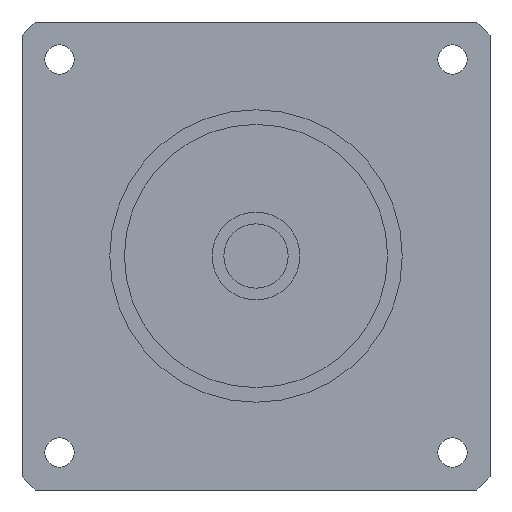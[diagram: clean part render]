
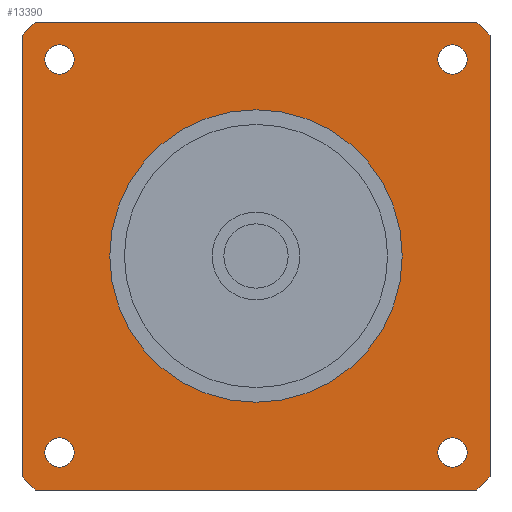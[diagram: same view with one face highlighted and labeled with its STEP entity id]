
A CAD part, left-side view. The second image highlights one B-rep face of the part: STEP entity #13390.
In plain terms, the highlighted planar face has unit normal (-1, 0, 0) as drawn and (0, 0, -1) by its records, which use the part's own axes.
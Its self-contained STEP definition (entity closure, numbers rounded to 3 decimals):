
#8680=CARTESIAN_POINT('',(-37.749,40.,-42.2));
#8690=VERTEX_POINT('',#8680);
#8870=CARTESIAN_POINT('',(-40.,37.749,-42.2));
#8880=VERTEX_POINT('',#8870);
#8910=CARTESIAN_POINT('',(0.,0.,
-42.2));
#8920=DIRECTION('',(0.,0.,1.));
#8930=DIRECTION('',(0.,1.,0.));
#8940=AXIS2_PLACEMENT_3D('',#8910,#8920,#8930);
#8950=CIRCLE('',#8940,55.);
#8960=EDGE_CURVE('',#8690,#8880,#8950,.T.);
#9100=CARTESIAN_POINT('',(-40.,-37.749,-42.2));
#9110=VERTEX_POINT('',#9100);
#9160=CARTESIAN_POINT('',(-40.,40.,-42.2));
#9170=DIRECTION('',(0.,-1.,0.));
#9180=VECTOR('',#9170,1000.);
#9190=LINE('',#9160,#9180);
#9200=EDGE_CURVE('',#8880,#9110,#9190,.T.);
#11930=CARTESIAN_POINT('',(33.588,-31.088,-42.2));
#11940=VERTEX_POINT('',#11930);
#12020=CARTESIAN_POINT('',(33.588,-36.088,-42.2));
#12030=VERTEX_POINT('',#12020);
#12060=CARTESIAN_POINT('',(33.588,-33.588,-42.2));
#12070=DIRECTION('',(0.,0.,1.));
#12080=DIRECTION('',(0.,1.,0.));
#12090=AXIS2_PLACEMENT_3D('',#12060,#12070,#12080);
#12100=CIRCLE('',#12090,2.5);
#12110=EDGE_CURVE('',#12030,#11940,#12100,.T.);
#12160=CARTESIAN_POINT('',(40.,-40.,-42.2));
#12170=DIRECTION('',(0.,0.,1.));
#12180=DIRECTION('',(0.,1.,0.));
#12190=AXIS2_PLACEMENT_3D('',#12160,#12170,#12180);
#12200=PLANE('',#12190);
#12210=CARTESIAN_POINT('',(-33.588,-33.588,-42.2));
#12220=DIRECTION('',(0.,0.,1.));
#12230=DIRECTION('',(0.,1.,0.));
#12240=AXIS2_PLACEMENT_3D('',#12210,#12220,#12230);
#12250=CIRCLE('',#12240,2.5);
#12260=CARTESIAN_POINT('',(-33.588,-31.088,-42.2));
#12270=VERTEX_POINT('',#12260);
#12280=CARTESIAN_POINT('',(-33.588,-36.088,-42.2));
#12290=VERTEX_POINT('',#12280);
#12300=EDGE_CURVE('',#12270,#12290,#12250,.T.);
#12310=ORIENTED_EDGE('',*,*,#12300,.T.);
#12320=EDGE_CURVE('',#12290,#12270,#12250,.T.);
#12330=ORIENTED_EDGE('',*,*,#12320,.T.);
#12340=EDGE_LOOP('',(#12330,#12310));
#12350=FACE_BOUND('',#12340,.T.);
#12360=CARTESIAN_POINT('',(33.588,33.588,-42.2));
#12370=DIRECTION('',(0.,0.,1.));
#12380=DIRECTION('',(0.,1.,0.));
#12390=AXIS2_PLACEMENT_3D('',#12360,#12370,#12380);
#12400=CIRCLE('',#12390,2.5);
#12410=CARTESIAN_POINT('',(33.588,36.088,-42.2));
#12420=VERTEX_POINT('',#12410);
#12430=CARTESIAN_POINT('',(33.588,31.088,-42.2));
#12440=VERTEX_POINT('',#12430);
#12450=EDGE_CURVE('',#12420,#12440,#12400,.T.);
#12460=ORIENTED_EDGE('',*,*,#12450,.T.);
#12470=EDGE_CURVE('',#12440,#12420,#12400,.T.);
#12480=ORIENTED_EDGE('',*,*,#12470,.T.);
#12490=EDGE_LOOP('',(#12480,#12460));
#12500=FACE_BOUND('',#12490,.T.);
#12510=CARTESIAN_POINT('',(-33.588,33.588,-42.2));
#12520=DIRECTION('',(0.,0.,1.));
#12530=DIRECTION('',(0.,1.,0.));
#12540=AXIS2_PLACEMENT_3D('',#12510,#12520,#12530);
#12550=CIRCLE('',#12540,2.5);
#12560=CARTESIAN_POINT('',(-33.588,36.088,-42.2));
#12570=VERTEX_POINT('',#12560);
#12580=CARTESIAN_POINT('',(-33.588,31.088,-42.2));
#12590=VERTEX_POINT('',#12580);
#12600=EDGE_CURVE('',#12570,#12590,#12550,.T.);
#12610=ORIENTED_EDGE('',*,*,#12600,.T.);
#12620=EDGE_CURVE('',#12590,#12570,#12550,.T.);
#12630=ORIENTED_EDGE('',*,*,#12620,.T.);
#12640=EDGE_LOOP('',(#12630,#12610));
#12650=FACE_BOUND('',#12640,.T.);
#12660=CARTESIAN_POINT('',(0.,0.,
-42.2));
#12670=DIRECTION('',(0.,0.,1.));
#12680=DIRECTION('',(0.,-1.,0.));
#12690=AXIS2_PLACEMENT_3D('',#12660,#12670,#12680);
#12700=CIRCLE('',#12690,25.);
#12710=CARTESIAN_POINT('',(0.,-25.,-42.2));
#12720=VERTEX_POINT('',#12710);
#12730=CARTESIAN_POINT('',(0.,25.,-42.2));
#12740=VERTEX_POINT('',#12730);
#12750=EDGE_CURVE('',#12720,#12740,#12700,.T.);
#12760=ORIENTED_EDGE('',*,*,#12750,.T.);
#12770=EDGE_CURVE('',#12740,#12720,#12700,.T.);
#12780=ORIENTED_EDGE('',*,*,#12770,.T.);
#12790=EDGE_LOOP('',(#12780,#12760));
#12800=FACE_BOUND('',#12790,.T.);
#12810=EDGE_CURVE('',#11940,#12030,#12100,.T.);
#12820=ORIENTED_EDGE('',*,*,#12810,.T.);
#12830=ORIENTED_EDGE('',*,*,#12110,.T.);
#12840=EDGE_LOOP('',(#12830,#12820));
#12850=FACE_BOUND('',#12840,.T.);
#12860=ORIENTED_EDGE('',*,*,#8960,.F.);
#12870=ORIENTED_EDGE('',*,*,#9200,.F.);
#12880=CARTESIAN_POINT('',(0.,0.,
-42.2));
#12890=DIRECTION('',(0.,0.,1.));
#12900=DIRECTION('',(0.,1.,0.));
#12910=AXIS2_PLACEMENT_3D('',#12880,#12890,#12900);
#12920=CIRCLE('',#12910,55.);
#12930=CARTESIAN_POINT('',(-37.749,-40.,-42.2));
#12940=VERTEX_POINT('',#12930);
#12950=EDGE_CURVE('',#9110,#12940,#12920,.T.);
#12960=ORIENTED_EDGE('',*,*,#12950,.F.);
#12970=CARTESIAN_POINT('',(-40.,-40.,-42.2));
#12980=DIRECTION('',(1.,0.,0.));
#12990=VECTOR('',#12980,1000.);
#13000=LINE('',#12970,#12990);
#13010=CARTESIAN_POINT('',(37.749,-40.,-42.2));
#13020=VERTEX_POINT('',#13010);
#13030=EDGE_CURVE('',#12940,#13020,#13000,.T.);
#13040=ORIENTED_EDGE('',*,*,#13030,.F.);
#13050=CARTESIAN_POINT('',(0.,0.,
-42.2));
#13060=DIRECTION('',(0.,0.,1.));
#13070=DIRECTION('',(0.,1.,0.));
#13080=AXIS2_PLACEMENT_3D('',#13050,#13060,#13070);
#13090=CIRCLE('',#13080,55.);
#13100=CARTESIAN_POINT('',(40.,-37.749,-42.2));
#13110=VERTEX_POINT('',#13100);
#13120=EDGE_CURVE('',#13020,#13110,#13090,.T.);
#13130=ORIENTED_EDGE('',*,*,#13120,.F.);
#13140=CARTESIAN_POINT('',(40.,-40.,-42.2));
#13150=DIRECTION('',(0.,1.,0.));
#13160=VECTOR('',#13150,1000.);
#13170=LINE('',#13140,#13160);
#13180=CARTESIAN_POINT('',(40.,37.749,-42.2));
#13190=VERTEX_POINT('',#13180);
#13200=EDGE_CURVE('',#13110,#13190,#13170,.T.);
#13210=ORIENTED_EDGE('',*,*,#13200,.F.);
#13220=CARTESIAN_POINT('',(0.,0.,
-42.2));
#13230=DIRECTION('',(0.,0.,1.));
#13240=DIRECTION('',(0.,1.,0.));
#13250=AXIS2_PLACEMENT_3D('',#13220,#13230,#13240);
#13260=CIRCLE('',#13250,55.);
#13270=CARTESIAN_POINT('',(37.749,40.,-42.2));
#13280=VERTEX_POINT('',#13270);
#13290=EDGE_CURVE('',#13190,#13280,#13260,.T.);
#13300=ORIENTED_EDGE('',*,*,#13290,.F.);
#13310=CARTESIAN_POINT('',(40.,40.,-42.2));
#13320=DIRECTION('',(-1.,0.,0.));
#13330=VECTOR('',#13320,1000.);
#13340=LINE('',#13310,#13330);
#13350=EDGE_CURVE('',#13280,#8690,#13340,.T.);
#13360=ORIENTED_EDGE('',*,*,#13350,.F.);
#13370=EDGE_LOOP('',(#13360,#13300,#13210,#13130,#13040,#12960,#12870,
#12860));
#13380=FACE_OUTER_BOUND('',#13370,.T.);
#13390=ADVANCED_FACE('',(#12350,#12500,#12650,#12800,#12850,#13380),
#12200,.F.);
